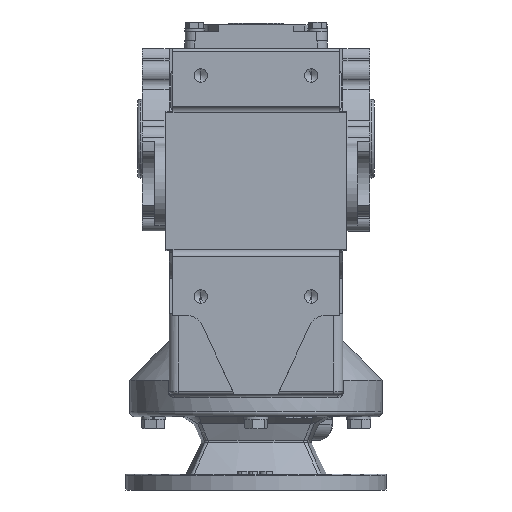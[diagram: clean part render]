
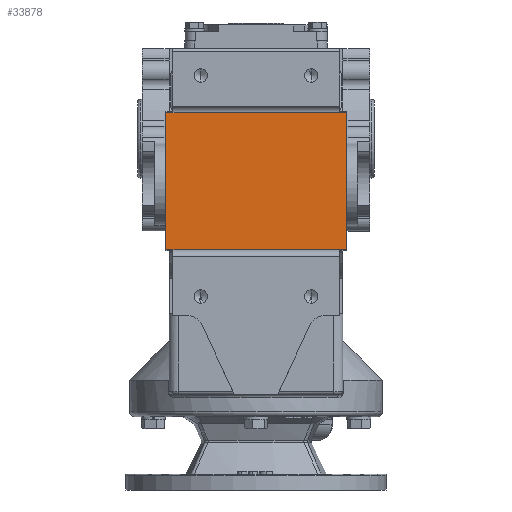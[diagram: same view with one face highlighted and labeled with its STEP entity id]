
A CAD part, front view. The second image highlights one B-rep face of the part: STEP entity #33878.
In plain terms, the highlighted planar face has unit normal (0, -1, 0).
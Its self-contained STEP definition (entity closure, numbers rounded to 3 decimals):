
#435 = AXIS2_PLACEMENT_3D ( 'NONE', #26674, #26679, #26680 ) ;
#817 = AXIS2_PLACEMENT_3D ( 'NONE', #19905, #19906, #19907 ) ;
#822 = AXIS2_PLACEMENT_3D ( 'NONE', #19902, #19903, #19904 ) ;
#7891 = EDGE_LOOP ( 'NONE', ( #39330, #39321, #38720, #38620, #38615, #38616 ) ) ;
#13116 = FACE_OUTER_BOUND ( 'NONE', #7891, .T. ) ;
#14886 = CIRCLE ( 'NONE', #817, 5. ) ;
#14900 = CIRCLE ( 'NONE', #822, 5. ) ;
#15071 = LINE ( 'NONE', #20160, #15074 ) ;
#15074 = VECTOR ( 'NONE', #20161, 1000. ) ;
#15268 = LINE ( 'NONE', #27440, #15271 ) ;
#15271 = VECTOR ( 'NONE', #27441, 1000. ) ;
#15450 = LINE ( 'NONE', #27963, #15458 ) ;
#15458 = VECTOR ( 'NONE', #27964, 1000. ) ;
#15468 = LINE ( 'NONE', #27986, #15471 ) ;
#15471 = VECTOR ( 'NONE', #27987, 1000. ) ;
#19902 = CARTESIAN_POINT ( 'NONE',  ( 62., -107., 15.5 ) ) ;
#19903 = DIRECTION ( 'NONE',  ( 0., 1., 0. ) ) ;
#19904 = DIRECTION ( 'NONE',  ( -1., 0., 0. ) ) ;
#19905 = CARTESIAN_POINT ( 'NONE',  ( 62., -107., -69.5 ) ) ;
#19906 = DIRECTION ( 'NONE',  ( 0., 1., 0. ) ) ;
#19907 = DIRECTION ( 'NONE',  ( -1., 0., 0. ) ) ;
#20160 = CARTESIAN_POINT ( 'NONE',  ( 57., -107., 16.5 ) ) ;
#20161 = DIRECTION ( 'NONE',  ( 0., 0., -1. ) ) ;
#24165 = VERTEX_POINT ( 'NONE', #28167 ) ;
#24391 = VERTEX_POINT ( 'NONE', #28340 ) ;
#24417 = VERTEX_POINT ( 'NONE', #28366 ) ;
#24427 = VERTEX_POINT ( 'NONE', #28376 ) ;
#24441 = VERTEX_POINT ( 'NONE', #28390 ) ;
#24524 = VERTEX_POINT ( 'NONE', #28448 ) ;
#26674 = CARTESIAN_POINT ( 'NONE',  ( 80., -107., -70.5 ) ) ;
#26676 = PLANE ( 'NONE',  #435 ) ;
#26679 = DIRECTION ( 'NONE',  ( 0., 1., 0. ) ) ;
#26680 = DIRECTION ( 'NONE',  ( -1., 0., 0. ) ) ;
#27440 = CARTESIAN_POINT ( 'NONE',  ( 80., -107., -70.5 ) ) ;
#27441 = DIRECTION ( 'NONE',  ( -1., 0., 0. ) ) ;
#27963 = CARTESIAN_POINT ( 'NONE',  ( -57., -107., -69.5 ) ) ;
#27964 = DIRECTION ( 'NONE',  ( 0., 0., 1. ) ) ;
#27986 = CARTESIAN_POINT ( 'NONE',  ( 80., -107., 16.5 ) ) ;
#27987 = DIRECTION ( 'NONE',  ( -1., 0., 0. ) ) ;
#28167 = CARTESIAN_POINT ( 'NONE',  ( 57., -107., -69.5 ) ) ;
#28340 = CARTESIAN_POINT ( 'NONE',  ( 57.101, -107., -70.5 ) ) ;
#28366 = CARTESIAN_POINT ( 'NONE',  ( -57., -107., -70.5 ) ) ;
#28376 = CARTESIAN_POINT ( 'NONE',  ( 57.101, -107., 16.5 ) ) ;
#28390 = CARTESIAN_POINT ( 'NONE',  ( -57., -107., 16.5 ) ) ;
#28448 = CARTESIAN_POINT ( 'NONE',  ( 57., -107., 15.5 ) ) ;
#33878 = ADVANCED_FACE ( 'NONE', ( #13116 ), #26676, .F. ) ;
#38615 = ORIENTED_EDGE ( 'NONE', *, *, #39839, .F. ) ;
#38616 = ORIENTED_EDGE ( 'NONE', *, *, #39766, .T. ) ;
#38620 = ORIENTED_EDGE ( 'NONE', *, *, #39767, .T. ) ;
#38720 = ORIENTED_EDGE ( 'NONE', *, *, #39981, .F. ) ;
#39321 = ORIENTED_EDGE ( 'NONE', *, *, #40124, .F. ) ;
#39330 = ORIENTED_EDGE ( 'NONE', *, *, #40131, .T. ) ;
#39766 = EDGE_CURVE ( 'NONE', #24524, #24427, #14900, .T. ) ;
#39767 = EDGE_CURVE ( 'NONE', #24391, #24165, #14886, .T. ) ;
#39839 = EDGE_CURVE ( 'NONE', #24524, #24165, #15071, .T. ) ;
#39981 = EDGE_CURVE ( 'NONE', #24391, #24417, #15268, .T. ) ;
#40124 = EDGE_CURVE ( 'NONE', #24417, #24441, #15450, .T. ) ;
#40131 = EDGE_CURVE ( 'NONE', #24427, #24441, #15468, .T. ) ;
